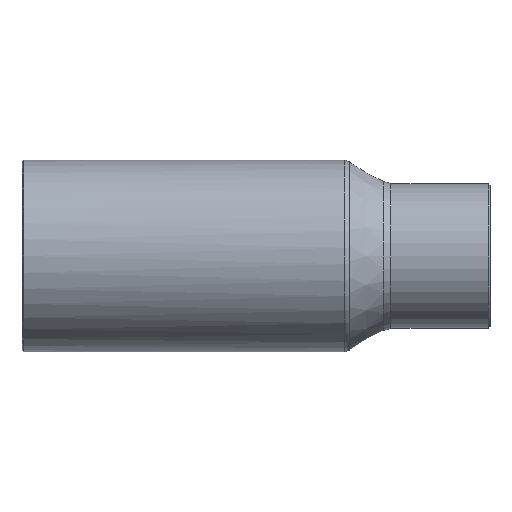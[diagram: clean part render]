
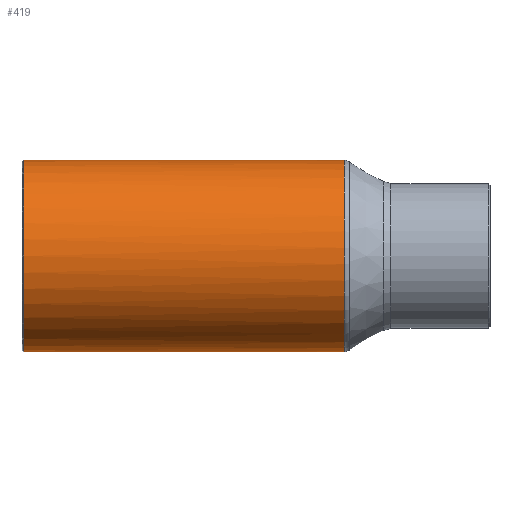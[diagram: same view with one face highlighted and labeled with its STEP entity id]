
A CAD part, front view. The second image highlights one B-rep face of the part: STEP entity #419.
In plain terms, the highlighted cylindrical face has radius 12.7 mm (diameter 25.4 mm), a full revolution.
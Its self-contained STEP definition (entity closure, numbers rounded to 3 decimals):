
#121=CARTESIAN_POINT('',(0.,0.0,12.7));
#122=VERTEX_POINT('',#121);
#150=CARTESIAN_POINT('',(0.,0.0,-12.7));
#151=VERTEX_POINT('',#150);
#345=CARTESIAN_POINT('',(-29.5,12.7,0.));
#346=VERTEX_POINT('',#345);
#347=CARTESIAN_POINT('',(-29.5,0.0,0.0));
#348=DIRECTION('',(-1.0,0.0,0.0));
#349=DIRECTION('',(0.0,-1.0,0.0));
#350=AXIS2_PLACEMENT_3D('',#347,#348,#349);
#351=CIRCLE('',#350,12.7);
#352=EDGE_CURVE('',#346,#346,#351,.T.);
#377=CARTESIAN_POINT('',(1.3,0.0,0.0));
#378=DIRECTION('',(1.0,0.0,0.0));
#379=DIRECTION('',(0.0,1.0,0.0));
#380=AXIS2_PLACEMENT_3D('',#377,#378,#379);
#381=CYLINDRICAL_SURFACE('',#380,12.7);
#382=CARTESIAN_POINT('',(13.017,10.204,7.561));
#383=VERTEX_POINT('',#382);
#384=CARTESIAN_POINT('',(13.017,10.204,-7.561));
#385=VERTEX_POINT('',#384);
#386=CARTESIAN_POINT('',(13.017,0.0,0.0));
#387=DIRECTION('',(1.0,0.0,0.0));
#388=DIRECTION('',(0.0,-1.0,0.0));
#389=AXIS2_PLACEMENT_3D('',#386,#387,#388);
#390=CIRCLE('',#389,12.7);
#391=EDGE_CURVE('',#383,#385,#390,.T.);
#392=ORIENTED_EDGE('',*,*,#391,.F.);
#393=CARTESIAN_POINT('',(0.0,0.0,0.0));
#394=DIRECTION('',(-0.617,0.787,0.0));
#395=DIRECTION('',(0.787,0.617,0.0));
#396=AXIS2_PLACEMENT_3D('',#393,#394,#395);
#397=ELLIPSE('',#396,20.585,12.7);
#398=EDGE_CURVE('',#122,#383,#397,.T.);
#399=ORIENTED_EDGE('',*,*,#398,.F.);
#400=CARTESIAN_POINT('',(0.0,0.0,0.0));
#401=DIRECTION('',(0.617,0.787,0.0));
#402=DIRECTION('',(-0.787,0.617,0.0));
#403=AXIS2_PLACEMENT_3D('',#400,#401,#402);
#404=ELLIPSE('',#403,20.585,12.7);
#405=EDGE_CURVE('',#151,#122,#404,.T.);
#406=ORIENTED_EDGE('',*,*,#405,.F.);
#407=CARTESIAN_POINT('',(0.0,0.0,0.0));
#408=DIRECTION('',(-0.617,0.787,0.0));
#409=DIRECTION('',(0.787,0.617,0.0));
#410=AXIS2_PLACEMENT_3D('',#407,#408,#409);
#411=ELLIPSE('',#410,20.585,12.7);
#412=EDGE_CURVE('',#385,#151,#411,.T.);
#413=ORIENTED_EDGE('',*,*,#412,.F.);
#414=EDGE_LOOP('',(#392,#399,#406,#413));
#415=FACE_OUTER_BOUND('',#414,.T.);
#416=ORIENTED_EDGE('',*,*,#352,.F.);
#417=EDGE_LOOP('',(#416));
#418=FACE_BOUND('',#417,.T.);
#419=ADVANCED_FACE('',(#415,#418),#381,.T.);
